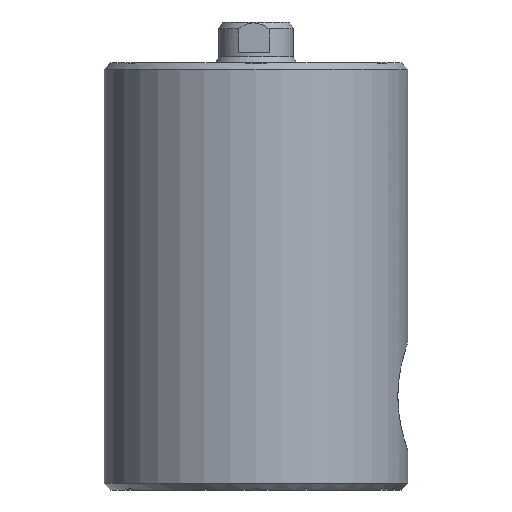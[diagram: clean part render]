
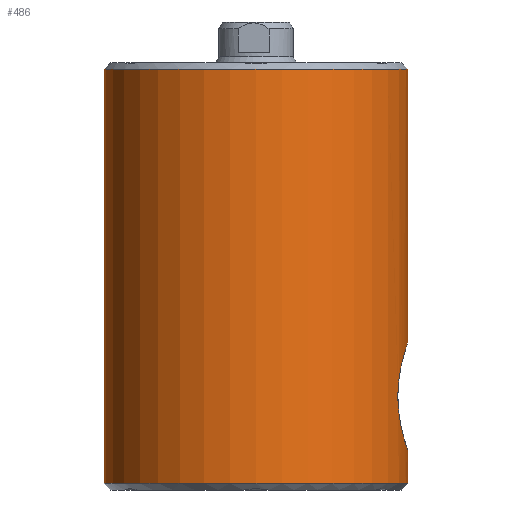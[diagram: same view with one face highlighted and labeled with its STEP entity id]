
A CAD part, front view. The second image highlights one B-rep face of the part: STEP entity #486.
In plain terms, the highlighted cylindrical face has radius 22.4 mm (diameter 44.8 mm), a partial arc.
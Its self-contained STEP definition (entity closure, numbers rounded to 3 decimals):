
#28 = CARTESIAN_POINT ( 'NONE',  ( 22.255, -2.593, 21.368 ) ) ;
#47 = CARTESIAN_POINT ( 'NONE',  ( 21.02, -7.741, 15.869 ) ) ;
#49 = CARTESIAN_POINT ( 'NONE',  ( -22.4, 0., 63. ) ) ;
#90 = EDGE_CURVE ( 'NONE', #1998, #4134, #2114, .T. ) ;
#102 = CARTESIAN_POINT ( 'NONE',  ( 0., 0., 63. ) ) ;
#235 = CARTESIAN_POINT ( 'NONE',  ( -22.4, 0., 1. ) ) ;
#241 = AXIS2_PLACEMENT_3D ( 'NONE', #586, #1873, #2573 ) ;
#295 = EDGE_CURVE ( 'NONE', #4134, #1392, #1551, .T. ) ;
#318 = CARTESIAN_POINT ( 'NONE',  ( 21.862, -4.882, 7.439 ) ) ;
#353 = CARTESIAN_POINT ( 'NONE',  ( 21.578, -6.015, 19.063 ) ) ;
#439 = DIRECTION ( 'NONE',  ( 0., 0., -1. ) ) ;
#442 = CARTESIAN_POINT ( 'NONE',  ( -22.4, 0., 62. ) ) ;
#449 = CARTESIAN_POINT ( 'NONE',  ( 22.4, 0., 5.782 ) ) ;
#486 = ADVANCED_FACE ( 'NONE', ( #2077 ), #3040, .T. ) ;
#573 = ORIENTED_EDGE ( 'NONE', *, *, #1111, .T. ) ;
#586 = CARTESIAN_POINT ( 'NONE',  ( 0., 0., 1. ) ) ;
#636 = CARTESIAN_POINT ( 'NONE',  ( 22.041, -4.021, 6.846 ) ) ;
#668 = EDGE_CURVE ( 'NONE', #2297, #2574, #1364, .T. ) ;
#674 = CARTESIAN_POINT ( 'NONE',  ( 21.113, -7.485, 10.945 ) ) ;
#694 = CARTESIAN_POINT ( 'NONE',  ( 21.081, -7.573, 11.191 ) ) ;
#711 = VECTOR ( 'NONE', #439, 1000. ) ;
#713 = CARTESIAN_POINT ( 'NONE',  ( 22.395, -0.525, 21.769 ) ) ;
#954 = CARTESIAN_POINT ( 'NONE',  ( 21.77, -5.287, 19.808 ) ) ;
#973 = CARTESIAN_POINT ( 'NONE',  ( 20.943, -7.947, 14.839 ) ) ;
#1001 = EDGE_LOOP ( 'NONE', ( #1452, #4201, #1442, #3911, #2193, #573 ) ) ;
#1007 = CARTESIAN_POINT ( 'NONE',  ( 20.943, -7.948, 12.729 ) ) ;
#1067 = B_SPLINE_CURVE_WITH_KNOTS ( 'NONE', 3,
 ( #2613, #3250, #3917, #3898, #3309, #3228, #2303, #1701, #636, #2964, #318, #1627, #1344, #1277, #4194, #2646, #3585, #674, #694, #1982, #3878, #1007, #2909, #2579, #973, #47, #1947, #2284, #3859, #2007, #3269, #353, #1663, #954, #1361, #2263, #3626, #2945, #3935, #28, #2320, #3601, #2344, #713, #3008, #2135 ),
 .UNSPECIFIED., .F., .F.,
 ( 4, 2, 2, 2, 2, 2, 2, 2, 2, 2, 2, 2, 2, 2, 2, 2, 2, 2, 2, 2, 2, 2, 4 ),
 ( 0., 0.002, 0.002, 0.003, 0.005, 0.006, 0.006, 0.008, 0.009, 0.01, 0.011, 0.013, 0.014, 0.016, 0.017, 0.018, 0.019, 0.02, 0.021, 0.022, 0.024, 0.024, 0.025 ),
 .UNSPECIFIED. ) ;
#1111 = EDGE_CURVE ( 'NONE', #3494, #2574, #1067, .T. ) ;
#1141 = CARTESIAN_POINT ( 'NONE',  ( 22.4, 0., 63. ) ) ;
#1183 = DIRECTION ( 'NONE',  ( -1., 0., 0. ) ) ;
#1277 = CARTESIAN_POINT ( 'NONE',  ( 21.578, -6.025, 8.494 ) ) ;
#1296 = DIRECTION ( 'NONE',  ( 1., 0., 0. ) ) ;
#1344 = CARTESIAN_POINT ( 'NONE',  ( 21.721, -5.477, 7.945 ) ) ;
#1361 = CARTESIAN_POINT ( 'NONE',  ( 21.865, -4.888, 20.137 ) ) ;
#1364 = LINE ( 'NONE', #2031, #3664 ) ;
#1392 = VERTEX_POINT ( 'NONE', #3907 ) ;
#1442 = ORIENTED_EDGE ( 'NONE', *, *, #90, .T. ) ;
#1452 = ORIENTED_EDGE ( 'NONE', *, *, #668, .F. ) ;
#1551 = CIRCLE ( 'NONE', #241, 22.4 ) ;
#1627 = CARTESIAN_POINT ( 'NONE',  ( 21.769, -5.285, 7.77 ) ) ;
#1663 = CARTESIAN_POINT ( 'NONE',  ( 21.627, -5.838, 19.257 ) ) ;
#1664 = CARTESIAN_POINT ( 'NONE',  ( 22.4, 0., 62. ) ) ;
#1701 = CARTESIAN_POINT ( 'NONE',  ( 22.12, -3.563, 6.6 ) ) ;
#1724 = CARTESIAN_POINT ( 'NONE',  ( 22.4, 0., 21.782 ) ) ;
#1873 = DIRECTION ( 'NONE',  ( 0., 0., 1. ) ) ;
#1947 = CARTESIAN_POINT ( 'NONE',  ( 21.077, -7.588, 16.37 ) ) ;
#1972 = DIRECTION ( 'NONE',  ( 0., 0., -1. ) ) ;
#1982 = CARTESIAN_POINT ( 'NONE',  ( 21.025, -7.727, 11.694 ) ) ;
#1998 = VERTEX_POINT ( 'NONE', #442 ) ;
#2007 = CARTESIAN_POINT ( 'NONE',  ( 21.436, -6.501, 18.451 ) ) ;
#2031 = CARTESIAN_POINT ( 'NONE',  ( 22.4, 0., 63. ) ) ;
#2077 = FACE_OUTER_BOUND ( 'NONE', #1001, .T. ) ;
#2114 = LINE ( 'NONE', #49, #711 ) ;
#2135 = CARTESIAN_POINT ( 'NONE',  ( 22.4, 0., 21.782 ) ) ;
#2193 = ORIENTED_EDGE ( 'NONE', *, *, #3615, .F. ) ;
#2263 = CARTESIAN_POINT ( 'NONE',  ( 21.996, -4.239, 20.571 ) ) ;
#2284 = CARTESIAN_POINT ( 'NONE',  ( 21.218, -7.182, 17.345 ) ) ;
#2297 = VERTEX_POINT ( 'NONE', #1664 ) ;
#2303 = CARTESIAN_POINT ( 'NONE',  ( 22.221, -2.838, 6.298 ) ) ;
#2320 = CARTESIAN_POINT ( 'NONE',  ( 22.308, -2.093, 21.521 ) ) ;
#2344 = CARTESIAN_POINT ( 'NONE',  ( 22.377, -1.05, 21.717 ) ) ;
#2427 = AXIS2_PLACEMENT_3D ( 'NONE', #102, #2724, #1183 ) ;
#2434 = EDGE_CURVE ( 'NONE', #2297, #1998, #2796, .T. ) ;
#2573 = DIRECTION ( 'NONE',  ( 1., 0., 0. ) ) ;
#2574 = VERTEX_POINT ( 'NONE', #1724 ) ;
#2579 = CARTESIAN_POINT ( 'NONE',  ( 20.923, -8., 14.304 ) ) ;
#2613 = CARTESIAN_POINT ( 'NONE',  ( 22.4, 0., 5.782 ) ) ;
#2646 = CARTESIAN_POINT ( 'NONE',  ( 21.3, -6.939, 9.766 ) ) ;
#2724 = DIRECTION ( 'NONE',  ( 0., 0., -1. ) ) ;
#2796 = CIRCLE ( 'NONE', #3734, 22.4 ) ;
#2909 = CARTESIAN_POINT ( 'NONE',  ( 20.923, -8., 13.251 ) ) ;
#2910 = CARTESIAN_POINT ( 'NONE',  ( 0., 0., 62. ) ) ;
#2945 = CARTESIAN_POINT ( 'NONE',  ( 22.118, -3.551, 20.955 ) ) ;
#2964 = CARTESIAN_POINT ( 'NONE',  ( 21.909, -4.671, 7.282 ) ) ;
#3008 = CARTESIAN_POINT ( 'NONE',  ( 22.4, -0.263, 21.782 ) ) ;
#3040 = CYLINDRICAL_SURFACE ( 'NONE', #2427, 22.4 ) ;
#3228 = CARTESIAN_POINT ( 'NONE',  ( 22.251, -2.588, 6.208 ) ) ;
#3250 = CARTESIAN_POINT ( 'NONE',  ( 22.4, -0.533, 5.782 ) ) ;
#3269 = CARTESIAN_POINT ( 'NONE',  ( 21.483, -6.346, 18.66 ) ) ;
#3309 = CARTESIAN_POINT ( 'NONE',  ( 22.304, -2.083, 6.053 ) ) ;
#3494 = VERTEX_POINT ( 'NONE', #449 ) ;
#3585 = CARTESIAN_POINT ( 'NONE',  ( 21.218, -7.185, 10.225 ) ) ;
#3601 = CARTESIAN_POINT ( 'NONE',  ( 22.363, -1.315, 21.678 ) ) ;
#3615 = EDGE_CURVE ( 'NONE', #3494, #1392, #4033, .T. ) ;
#3626 = CARTESIAN_POINT ( 'NONE',  ( 22.039, -4.014, 20.707 ) ) ;
#3664 = VECTOR ( 'NONE', #1972, 1000. ) ;
#3683 = VECTOR ( 'NONE', #3723, 1000. ) ;
#3723 = DIRECTION ( 'NONE',  ( 0., 0., -1. ) ) ;
#3734 = AXIS2_PLACEMENT_3D ( 'NONE', #2910, #4195, #1296 ) ;
#3859 = CARTESIAN_POINT ( 'NONE',  ( 21.302, -6.935, 17.804 ) ) ;
#3878 = CARTESIAN_POINT ( 'NONE',  ( 21.001, -7.793, 11.953 ) ) ;
#3898 = CARTESIAN_POINT ( 'NONE',  ( 22.327, -1.828, 5.989 ) ) ;
#3907 = CARTESIAN_POINT ( 'NONE',  ( 22.4, 0., 1. ) ) ;
#3911 = ORIENTED_EDGE ( 'NONE', *, *, #295, .T. ) ;
#3917 = CARTESIAN_POINT ( 'NONE',  ( 22.381, -1.057, 5.835 ) ) ;
#3935 = CARTESIAN_POINT ( 'NONE',  ( 22.155, -3.315, 21.067 ) ) ;
#4033 = LINE ( 'NONE', #1141, #3683 ) ;
#4134 = VERTEX_POINT ( 'NONE', #235 ) ;
#4194 = CARTESIAN_POINT ( 'NONE',  ( 21.482, -6.355, 8.894 ) ) ;
#4195 = DIRECTION ( 'NONE',  ( 0., 0., -1. ) ) ;
#4201 = ORIENTED_EDGE ( 'NONE', *, *, #2434, .T. ) ;
